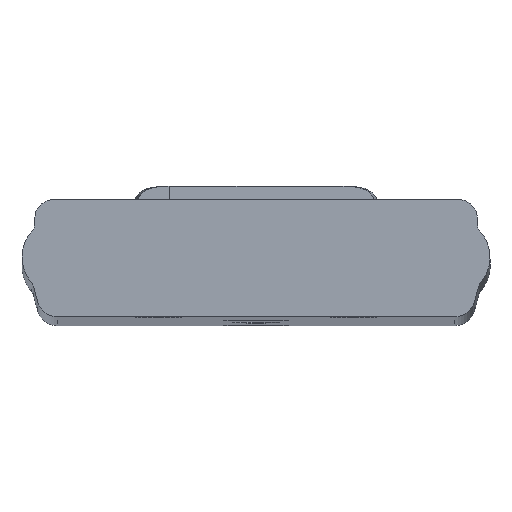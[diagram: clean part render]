
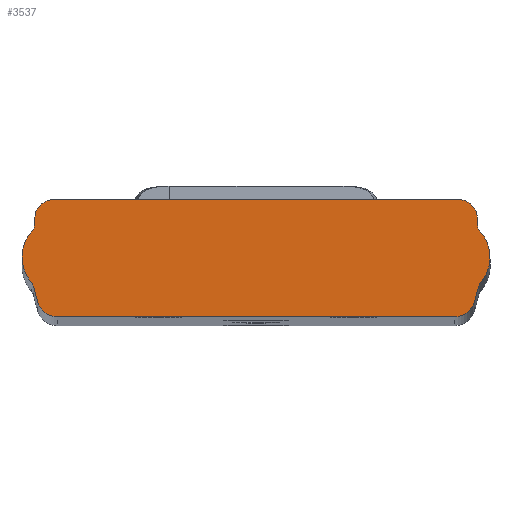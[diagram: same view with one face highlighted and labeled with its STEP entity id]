
A CAD part, top view. The second image highlights one B-rep face of the part: STEP entity #3537.
In plain terms, the highlighted planar face has unit normal (0, 0, 1).
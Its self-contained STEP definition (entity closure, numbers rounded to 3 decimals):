
#12 = CARTESIAN_POINT ( 'NONE',  ( 19.335, -5.278, 493. ) ) ;
#74 = CARTESIAN_POINT ( 'NONE',  ( -22.78, 0.532, 493. ) ) ;
#77 = CARTESIAN_POINT ( 'NONE',  ( -19.73, 6.122, 493. ) ) ;
#85 = CARTESIAN_POINT ( 'NONE',  ( 21.267, -3.795, 493. ) ) ;
#97 = CARTESIAN_POINT ( 'NONE',  ( -21.662, -2.321, 493. ) ) ;
#148 = CARTESIAN_POINT ( 'NONE',  ( -21.53, 3.755, 493. ) ) ;
#153 = CARTESIAN_POINT ( 'NONE',  ( 21.792, 3.081, 493. ) ) ;
#178 = CARTESIAN_POINT ( 'NONE',  ( -21.53, 4.322, 493. ) ) ;
#457 = CIRCLE ( 'NONE', #5617, 1.8 ) ;
#479 = CIRCLE ( 'NONE', #5626, 3.78 ) ;
#670 = CIRCLE ( 'NONE', #5660, 1. ) ;
#680 = CIRCLE ( 'NONE', #5662, 1. ) ;
#700 = LINE ( 'NONE', #2610, #706 ) ;
#706 = VECTOR ( 'NONE', #2620, 1000. ) ;
#732 = CIRCLE ( 'NONE', #5670, 2. ) ;
#772 = CIRCLE ( 'NONE', #5675, 3.78 ) ;
#800 = LINE ( 'NONE', #2492, #806 ) ;
#801 = VERTEX_POINT ( 'NONE', #178 ) ;
#806 = VECTOR ( 'NONE', #2623, 1000. ) ;
#815 = VERTEX_POINT ( 'NONE', #153 ) ;
#838 = LINE ( 'NONE', #2510, #844 ) ;
#844 = VECTOR ( 'NONE', #2550, 1000. ) ;
#855 = VERTEX_POINT ( 'NONE', #148 ) ;
#915 = CIRCLE ( 'NONE', #5698, 1. ) ;
#943 = LINE ( 'NONE', #4799, #949 ) ;
#949 = VECTOR ( 'NONE', #4819, 1000. ) ;
#966 = CIRCLE ( 'NONE', #5712, 1.8 ) ;
#967 = LINE ( 'NONE', #4446, #974 ) ;
#974 = VECTOR ( 'NONE', #4465, 1000. ) ;
#985 = CIRCLE ( 'NONE', #5716, 3.78 ) ;
#999 = CIRCLE ( 'NONE', #5724, 2. ) ;
#1021 = CIRCLE ( 'NONE', #5729, 1. ) ;
#1153 = LINE ( 'NONE', #5848, #1154 ) ;
#1154 = VECTOR ( 'NONE', #5849, 1000. ) ;
#1346 = CARTESIAN_POINT ( 'NONE',  ( -21.267, -3.795, 493. ) ) ;
#1431 = DIRECTION ( 'NONE',  ( -1., 0., 0. ) ) ;
#1458 = CARTESIAN_POINT ( 'NONE',  ( 21.53, 3.755, 493. ) ) ;
#1475 = CARTESIAN_POINT ( 'NONE',  ( 21.662, -2.321, 493. ) ) ;
#1477 = CARTESIAN_POINT ( 'NONE',  ( -19.335, -5.278, 493. ) ) ;
#1478 = CARTESIAN_POINT ( 'NONE',  ( 19.73, 6.122, 493. ) ) ;
#1512 = CARTESIAN_POINT ( 'NONE',  ( 21.869, -1.929, 493. ) ) ;
#1524 = CARTESIAN_POINT ( 'NONE',  ( -21.792, 3.081, 493. ) ) ;
#1598 = CARTESIAN_POINT ( 'NONE',  ( -21.869, -1.929, 493. ) ) ;
#1680 = PLANE ( 'NONE',  #5468 ) ;
#1713 = DIRECTION ( 'NONE',  ( 0., 0., -1. ) ) ;
#1751 = CARTESIAN_POINT ( 'NONE',  ( 19.335, -3.278, 493. ) ) ;
#1785 = CARTESIAN_POINT ( 'NONE',  ( 21.53, 4.322, 493. ) ) ;
#1795 = ORIENTED_EDGE ( 'NONE', *, *, #5353, .T. ) ;
#1835 = VERTEX_POINT ( 'NONE', #77 ) ;
#1836 = ORIENTED_EDGE ( 'NONE', *, *, #5113, .T. ) ;
#1846 = ORIENTED_EDGE ( 'NONE', *, *, #5095, .T. ) ;
#1876 = VERTEX_POINT ( 'NONE', #74 ) ;
#2002 = ORIENTED_EDGE ( 'NONE', *, *, #5093, .T. ) ;
#2003 = ORIENTED_EDGE ( 'NONE', *, *, #5215, .T. ) ;
#2070 = ORIENTED_EDGE ( 'NONE', *, *, #5253, .T. ) ;
#2081 = ORIENTED_EDGE ( 'NONE', *, *, #5230, .T. ) ;
#2087 = VERTEX_POINT ( 'NONE', #97 ) ;
#2127 = ORIENTED_EDGE ( 'NONE', *, *, #5238, .T. ) ;
#2168 = ORIENTED_EDGE ( 'NONE', *, *, #5136, .T. ) ;
#2266 = ORIENTED_EDGE ( 'NONE', *, *, #5264, .T. ) ;
#2271 = ORIENTED_EDGE ( 'NONE', *, *, #5103, .T. ) ;
#2280 = ORIENTED_EDGE ( 'NONE', *, *, #4976, .T. ) ;
#2330 = ORIENTED_EDGE ( 'NONE', *, *, #4995, .T. ) ;
#2334 = ORIENTED_EDGE ( 'NONE', *, *, #5151, .T. ) ;
#2339 = VERTEX_POINT ( 'NONE', #12 ) ;
#2344 = ORIENTED_EDGE ( 'NONE', *, *, #5194, .T. ) ;
#2404 = ORIENTED_EDGE ( 'NONE', *, *, #5127, .T. ) ;
#2405 = VERTEX_POINT ( 'NONE', #85 ) ;
#2435 = ORIENTED_EDGE ( 'NONE', *, *, #5228, .T. ) ;
#2448 = DIRECTION ( 'NONE',  ( 1., 0., 0. ) ) ;
#2451 = DIRECTION ( 'NONE',  ( 0., 0., -1. ) ) ;
#2452 = CARTESIAN_POINT ( 'NONE',  ( 22.53, 3.755, 493. ) ) ;
#2463 = DIRECTION ( 'NONE',  ( 1., 0., 0. ) ) ;
#2492 = CARTESIAN_POINT ( 'NONE',  ( 21.53, 4.322, 493. ) ) ;
#2510 = CARTESIAN_POINT ( 'NONE',  ( -21.53, 4.322, 493. ) ) ;
#2523 = DIRECTION ( 'NONE',  ( -1., 0., 0. ) ) ;
#2524 = DIRECTION ( 'NONE',  ( 0., 0., 1. ) ) ;
#2525 = CARTESIAN_POINT ( 'NONE',  ( 19.335, -3.278, 493. ) ) ;
#2546 = DIRECTION ( 'NONE',  ( 1., 0., 0. ) ) ;
#2547 = DIRECTION ( 'NONE',  ( 0., 0., -1. ) ) ;
#2549 = CARTESIAN_POINT ( 'NONE',  ( 22.628, -2.58, 493. ) ) ;
#2550 = DIRECTION ( 'NONE',  ( 0., -1., 0. ) ) ;
#2553 = CARTESIAN_POINT ( 'NONE',  ( 19., 0.532, 493. ) ) ;
#2610 = CARTESIAN_POINT ( 'NONE',  ( -19.5, 6.122, 493. ) ) ;
#2620 = DIRECTION ( 'NONE',  ( -1., 0., 0. ) ) ;
#2623 = DIRECTION ( 'NONE',  ( 0., 1., 0. ) ) ;
#2631 = DIRECTION ( 'NONE',  ( 0., 0., 1. ) ) ;
#2657 = DIRECTION ( 'NONE',  ( 1., 0., 0. ) ) ;
#2658 = CARTESIAN_POINT ( 'NONE',  ( -19., 0.532, 493. ) ) ;
#2722 = DIRECTION ( 'NONE',  ( 1., 0., 0. ) ) ;
#2783 = CARTESIAN_POINT ( 'NONE',  ( 19.73, 4.322, 493. ) ) ;
#2799 = DIRECTION ( 'NONE',  ( 0., 0., 1. ) ) ;
#2848 = DIRECTION ( 'NONE',  ( 0., 0., 1. ) ) ;
#2980 = VERTEX_POINT ( 'NONE', #1346 ) ;
#3027 = VERTEX_POINT ( 'NONE', #1458 ) ;
#3034 = VERTEX_POINT ( 'NONE', #1475 ) ;
#3035 = VERTEX_POINT ( 'NONE', #1477 ) ;
#3036 = VERTEX_POINT ( 'NONE', #1478 ) ;
#3048 = VERTEX_POINT ( 'NONE', #1512 ) ;
#3052 = VERTEX_POINT ( 'NONE', #1524 ) ;
#3081 = VERTEX_POINT ( 'NONE', #1598 ) ;
#3139 = VERTEX_POINT ( 'NONE', #1785 ) ;
#3537 = ADVANCED_FACE ( 'NONE', ( #3995 ), #1680, .F. ) ;
#3995 = FACE_OUTER_BOUND ( 'NONE', #4243, .T. ) ;
#4243 = EDGE_LOOP ( 'NONE', ( #2280, #2271, #2435, #2334, #2344, #2330, #2127, #2266, #2003, #2070, #1795, #1836, #2081, #1846, #2404, #2002, #2168 ) ) ;
#4407 = DIRECTION ( 'NONE',  ( 1., 0., 0. ) ) ;
#4408 = DIRECTION ( 'NONE',  ( 0., 0., -1. ) ) ;
#4409 = CARTESIAN_POINT ( 'NONE',  ( -22.628, -2.58, 493. ) ) ;
#4442 = DIRECTION ( 'NONE',  ( 0., 0., 1. ) ) ;
#4443 = DIRECTION ( 'NONE',  ( 1., 0., 0. ) ) ;
#4444 = DIRECTION ( 'NONE',  ( 0., 0., 1. ) ) ;
#4445 = CARTESIAN_POINT ( 'NONE',  ( -19.73, 4.322, 493. ) ) ;
#4446 = CARTESIAN_POINT ( 'NONE',  ( 21.267, -3.795, 493. ) ) ;
#4465 = DIRECTION ( 'NONE',  ( 0.259, 0.966, 0. ) ) ;
#4500 = DIRECTION ( 'NONE',  ( 1., 0., 0. ) ) ;
#4501 = CARTESIAN_POINT ( 'NONE',  ( -19., 0.532, 493. ) ) ;
#4502 = DIRECTION ( 'NONE',  ( 0., 0., 1. ) ) ;
#4508 = DIRECTION ( 'NONE',  ( 1., 0., 0. ) ) ;
#4535 = CARTESIAN_POINT ( 'NONE',  ( -19.335, -3.278, 493. ) ) ;
#4799 = CARTESIAN_POINT ( 'NONE',  ( -21.267, -3.795, 493. ) ) ;
#4819 = DIRECTION ( 'NONE',  ( 0.259, -0.966, 0. ) ) ;
#4825 = CARTESIAN_POINT ( 'NONE',  ( -22.53, 3.755, 493. ) ) ;
#4877 = DIRECTION ( 'NONE',  ( 1., 0., 0. ) ) ;
#4928 = DIRECTION ( 'NONE',  ( 0., 0., -1. ) ) ;
#4976 = EDGE_CURVE ( 'NONE', #3139, #3036, #457, .T. ) ;
#4995 = EDGE_CURVE ( 'NONE', #3052, #1876, #479, .T. ) ;
#5093 = EDGE_CURVE ( 'NONE', #815, #3027, #670, .T. ) ;
#5095 = EDGE_CURVE ( 'NONE', #3034, #3048, #680, .T. ) ;
#5103 = EDGE_CURVE ( 'NONE', #3036, #1835, #700, .T. ) ;
#5113 = EDGE_CURVE ( 'NONE', #2339, #2405, #732, .T. ) ;
#5127 = EDGE_CURVE ( 'NONE', #3048, #815, #772, .T. ) ;
#5136 = EDGE_CURVE ( 'NONE', #3027, #3139, #800, .T. ) ;
#5151 = EDGE_CURVE ( 'NONE', #801, #855, #838, .T. ) ;
#5194 = EDGE_CURVE ( 'NONE', #855, #3052, #915, .T. ) ;
#5215 = EDGE_CURVE ( 'NONE', #2087, #2980, #943, .T. ) ;
#5228 = EDGE_CURVE ( 'NONE', #1835, #801, #966, .T. ) ;
#5230 = EDGE_CURVE ( 'NONE', #2405, #3034, #967, .T. ) ;
#5238 = EDGE_CURVE ( 'NONE', #1876, #3081, #985, .T. ) ;
#5253 = EDGE_CURVE ( 'NONE', #2980, #3035, #999, .T. ) ;
#5264 = EDGE_CURVE ( 'NONE', #3081, #2087, #1021, .T. ) ;
#5353 = EDGE_CURVE ( 'NONE', #3035, #2339, #1153, .T. ) ;
#5468 = AXIS2_PLACEMENT_3D ( 'NONE', #1751, #1713, #1431 ) ;
#5617 = AXIS2_PLACEMENT_3D ( 'NONE', #2783, #2799, #2722 ) ;
#5626 = AXIS2_PLACEMENT_3D ( 'NONE', #2658, #2848, #2657 ) ;
#5660 = AXIS2_PLACEMENT_3D ( 'NONE', #2452, #2451, #2448 ) ;
#5662 = AXIS2_PLACEMENT_3D ( 'NONE', #2549, #2547, #2546 ) ;
#5670 = AXIS2_PLACEMENT_3D ( 'NONE', #2525, #2524, #2523 ) ;
#5675 = AXIS2_PLACEMENT_3D ( 'NONE', #2553, #2631, #2463 ) ;
#5698 = AXIS2_PLACEMENT_3D ( 'NONE', #4825, #4928, #4877 ) ;
#5712 = AXIS2_PLACEMENT_3D ( 'NONE', #4445, #4444, #4443 ) ;
#5716 = AXIS2_PLACEMENT_3D ( 'NONE', #4501, #4502, #4508 ) ;
#5724 = AXIS2_PLACEMENT_3D ( 'NONE', #4535, #4442, #4500 ) ;
#5729 = AXIS2_PLACEMENT_3D ( 'NONE', #4409, #4408, #4407 ) ;
#5848 = CARTESIAN_POINT ( 'NONE',  ( -19.335, -5.278, 493. ) ) ;
#5849 = DIRECTION ( 'NONE',  ( 1., 0., 0. ) ) ;
